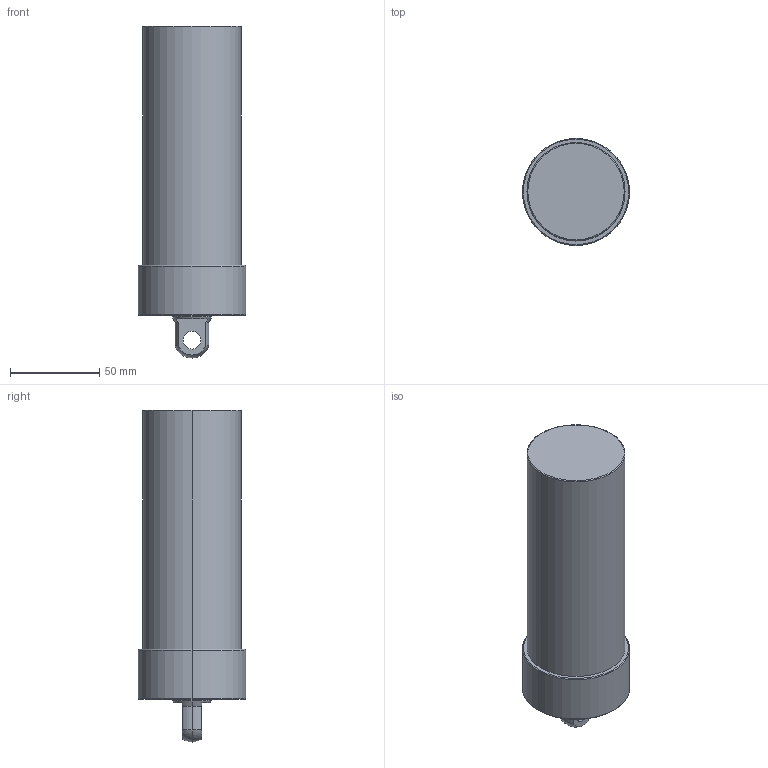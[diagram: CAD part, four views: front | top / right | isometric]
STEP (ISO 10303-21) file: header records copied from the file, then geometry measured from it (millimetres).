
FILE_DESCRIPTION (( 'STEP AP203' ), '1' );
FILE_NAME ('CLLU-055GP-105.STEP', '2020-01-06T07:43:18', ( '' ), ( '' ), 'SwSTEP 2.0', 'SolidWorks 2015', '' );
FILE_SCHEMA (( 'CONFIG_CONTROL_DESIGN' ));
Length unit declared in the file: millimetre
Products named in the file (1): CLLU-055GP-105
Bounding box: 60 x 60 x 186 mm (x, y, z)
Volume: 399758.5 mm3; surface area: 36407.3 mm2
Topology: 1 solids, 1 shells, 58 faces, 131 edges, 75 vertices
Faces by surface type: cylinder 23, cone 18, plane 9, torus 6, sphere 2
Entity records: 1658 total; most frequent: DIRECTION 311, CARTESIAN_POINT 269, ORIENTED_EDGE 246, AXIS2_PLACEMENT_3D 133, EDGE_CURVE 123, VERTEX_POINT 75, CIRCLE 74, EDGE_LOOP 68
